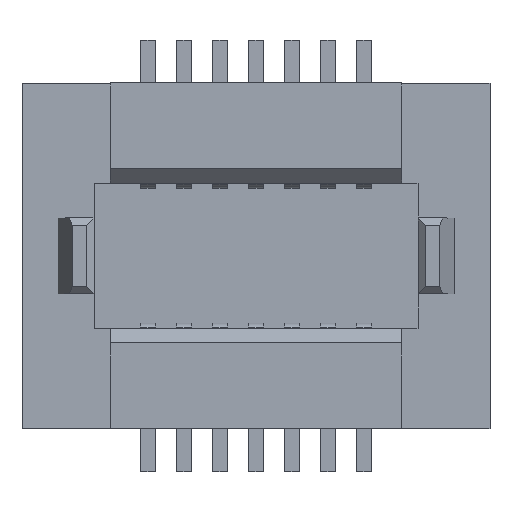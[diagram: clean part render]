
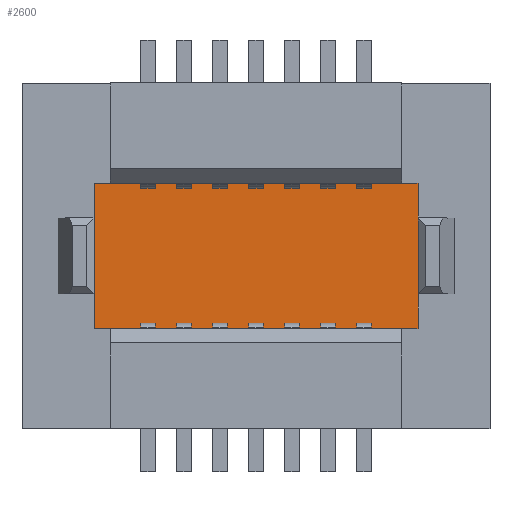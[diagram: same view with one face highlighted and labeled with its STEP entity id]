
A CAD part, top view. The second image highlights one B-rep face of the part: STEP entity #2600.
In plain terms, the highlighted planar face has unit normal (0, 0, 1).
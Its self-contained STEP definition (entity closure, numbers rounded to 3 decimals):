
#2210=CARTESIAN_POINT('',(0.,0.,0.63));
#2220=DIRECTION('',(0.,0.,1.));
#2230=DIRECTION('',(1.,0.,0.));
#2240=AXIS2_PLACEMENT_3D('',#2210,#2220,#2230);
#2250=PLANE('',#2240);
#2260=CARTESIAN_POINT('',(-2.25,1.01,0.63));
#2270=DIRECTION('',(0.,-1.,0.));
#2280=VECTOR('',#2270,1.);
#2290=LINE('',#2260,#2280);
#2300=CARTESIAN_POINT('',(-2.25,1.01,0.63));
#2310=VERTEX_POINT('',#2300);
#2320=CARTESIAN_POINT('',(-2.25,-1.01,0.63));
#2330=VERTEX_POINT('',#2320);
#2340=EDGE_CURVE('',#2310,#2330,#2290,.T.);
#2350=ORIENTED_EDGE('',*,*,#2340,.T.);
#2360=CARTESIAN_POINT('',(2.25,1.01,0.63));
#2370=DIRECTION('',(-1.,0.,0.));
#2380=VECTOR('',#2370,1.);
#2390=LINE('',#2360,#2380);
#2400=CARTESIAN_POINT('',(2.25,1.01,0.63));
#2410=VERTEX_POINT('',#2400);
#2420=EDGE_CURVE('',#2410,#2310,#2390,.T.);
#2430=ORIENTED_EDGE('',*,*,#2420,.T.);
#2440=CARTESIAN_POINT('',(2.25,-1.01,0.63));
#2450=DIRECTION('',(0.,1.,0.));
#2460=VECTOR('',#2450,1.);
#2470=LINE('',#2440,#2460);
#2480=CARTESIAN_POINT('',(2.25,-1.01,0.63));
#2490=VERTEX_POINT('',#2480);
#2500=EDGE_CURVE('',#2490,#2410,#2470,.T.);
#2510=ORIENTED_EDGE('',*,*,#2500,.T.);
#2520=CARTESIAN_POINT('',(-2.25,-1.01,0.63));
#2530=DIRECTION('',(1.,0.,0.));
#2540=VECTOR('',#2530,1.);
#2550=LINE('',#2520,#2540);
#2560=EDGE_CURVE('',#2330,#2490,#2550,.T.);
#2570=ORIENTED_EDGE('',*,*,#2560,.T.);
#2580=EDGE_LOOP('',(#2570,#2510,#2430,#2350));
#2590=FACE_OUTER_BOUND('',#2580,.T.);
#2600=ADVANCED_FACE('',(#2590),#2250,.T.);
